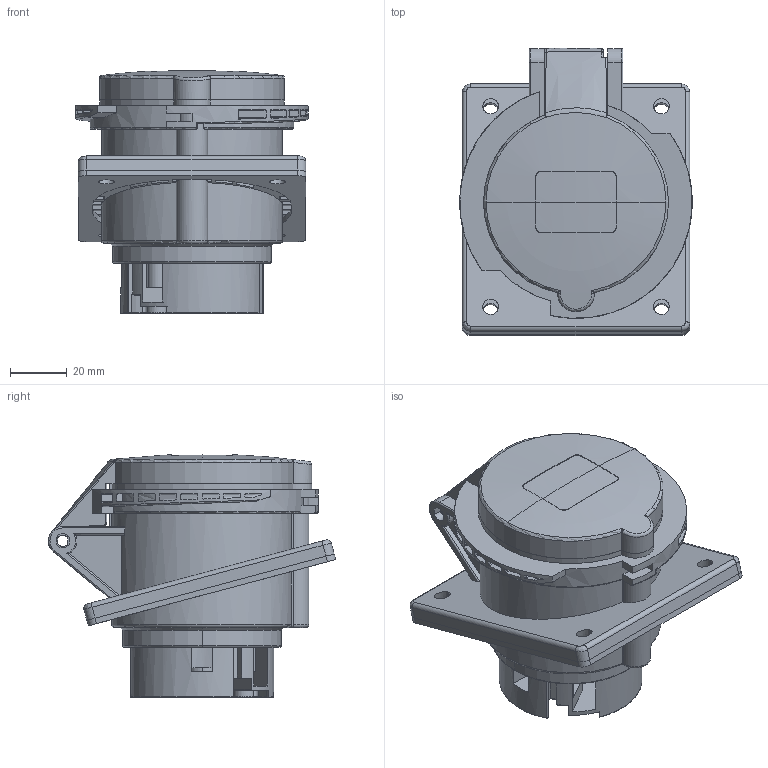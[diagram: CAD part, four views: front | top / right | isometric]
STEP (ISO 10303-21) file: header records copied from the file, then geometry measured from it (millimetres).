
FILE_DESCRIPTION(('FreeCAD Model'),'2;1');
FILE_NAME('Open CASCADE Shape Model','2026-02-04T10:50:26',(''),(''), 'Open CASCADE STEP processor 7.8','FreeCAD','Unknown');
FILE_SCHEMA(('AUTOMOTIVE_DESIGN { 1 0 10303 214 1 1 1 1 }'));
Length unit declared in the file: millimetre
Products named in the file (6): TL3I32443; Base interna; Terminais; Tampa; Tomada externa; Tomada interna
Assembly tree (5 placements, depth 2):
  TL3I32443
    Base interna
    Terminais
    Tampa
    Tomada externa
    Tomada interna
Bounding box: 81.7 x 101 x 85.33 mm (x, y, z)
Volume: 227323.7 mm3; surface area: 77651 mm2
Topology: 5 solids, 5 shells, 876 faces, 2382 edges, 1565 vertices
Faces by surface type: plane 527, cylinder 251, torus 34, bspline 32, cone 23, sphere 9
Entity records: 31998 total; most frequent: CARTESIAN_POINT 9767, ORIENTED_EDGE 4758, DIRECTION 4373, EDGE_CURVE 2379, LINE 1569, VECTOR 1569, VERTEX_POINT 1565, AXIS2_PLACEMENT_3D 1402
